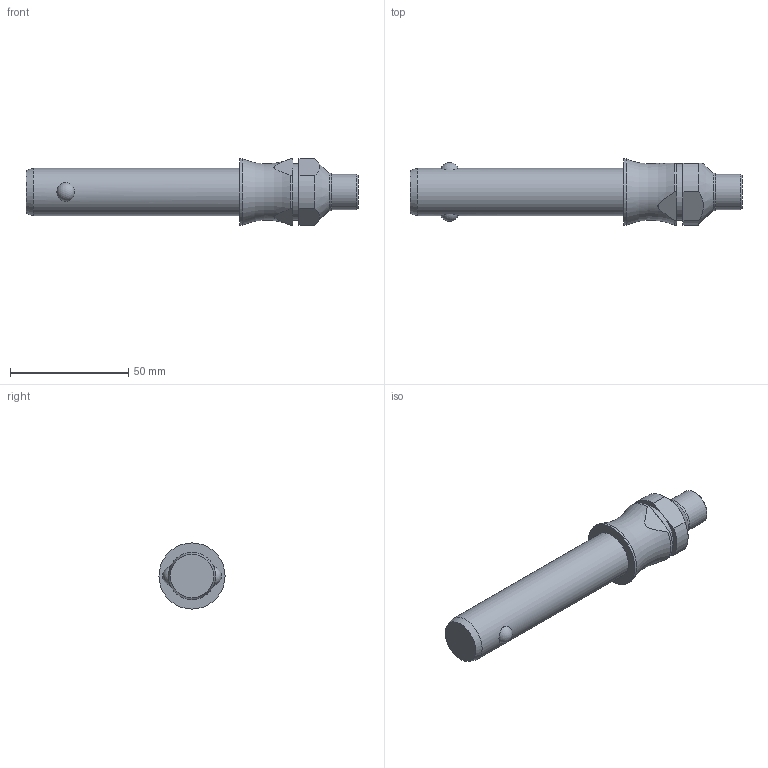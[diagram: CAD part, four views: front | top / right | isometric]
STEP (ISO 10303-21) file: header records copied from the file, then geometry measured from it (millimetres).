
FILE_DESCRIPTION( ( 'STEP AP203' ), '1' );
FILE_NAME( 'C:/Temp/Ganter_Step_05_03_2020/data/3_1/gn113_3/Stainless Steel-Ball lock pin GN 113.3-20-70 (deactivated).stp', '2020-03-12T08:19:03', ( 'License CC BY-ND 4.0' ), ( 'CADENAS' ), ' ', 'PARTsolutions', ' ' );
FILE_SCHEMA( ( 'CONFIG_CONTROL_DESIGN' ) );
Length unit declared in the file: millimetre
Products named in the file (1): _Stainless Steel-Ball lock pin GN 113.3-20-70 (deactivated)
Bounding box: 140.6 x 28 x 28 mm (x, y, z)
Volume: 49232.3 mm3; surface area: 10450.4 mm2
Topology: 1 solids, 1 shells, 29 faces, 65 edges, 42 vertices
Faces by surface type: plane 11, cylinder 11, cone 4, sphere 2, torus 1
Full cylindrical faces by diameter (mm): 15 x1, 16 x1, 20 x1, 24 x1, 28 x1
Entity records: 1010 total; most frequent: CARTESIAN_POINT 380, DIRECTION 126, ORIENTED_EDGE 100, AXIS2_PLACEMENT_3D 54, EDGE_CURVE 50, EDGE_LOOP 44, VERTEX_POINT 38, FACE_OUTER_BOUND 35
